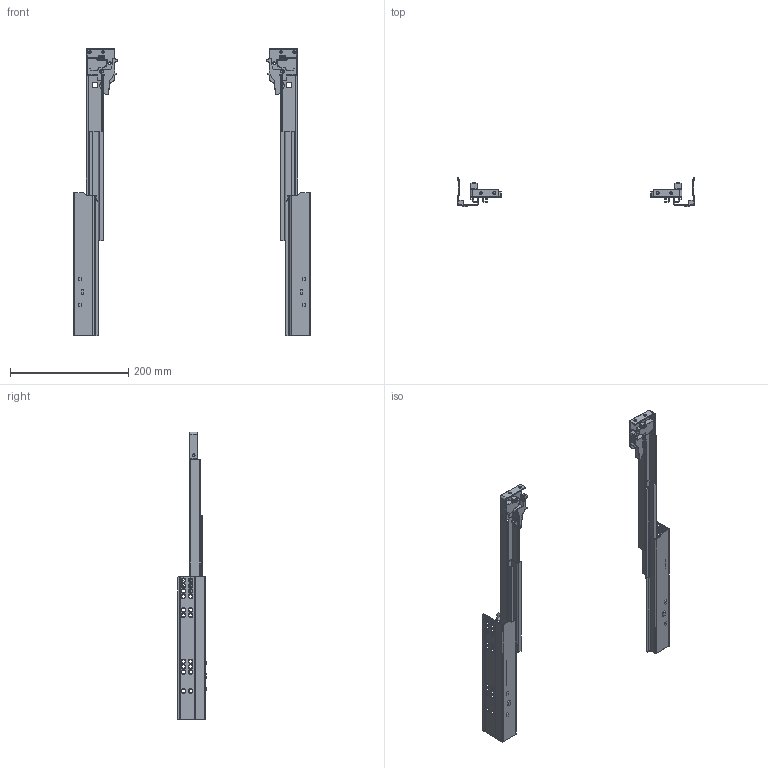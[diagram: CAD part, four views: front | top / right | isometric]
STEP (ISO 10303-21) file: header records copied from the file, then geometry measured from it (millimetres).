
FILE_DESCRIPTION(/* description */ (''),/* implementation_level */ '2;1');
FILE_NAME(/* name */ 'D:\$Workingspace\Designs\Katalog\Cadsoft\GTV Prowadnice\Prowadnice GTV_bryły 3D\PB-0SHX-270-A_wysuw.stp',/* time_stamp */ '2016-11-21T12:38:22+01:00',/* author */ ('tomaszw'),/* organization */ (''),/* preprocessor_version */ 'ST-DEVELOPER v16.1',/* originating_system */ 'Autodesk Inventor 2016',/* authorisation */ '');
FILE_SCHEMA (('AUTOMOTIVE_DESIGN { 1 0 10303 214 3 1 1 }'));
Products named in the file (9): PB-0SHX-CL-270; PB-0SHX-CR-270; PB-0SHX-DL-270; PB-0SHX-DR-270; PB-0SHX-DWL-270; PB-0SHX-DWR-270; PB-0SHX-SL; PB-0SHX-SR; PB-0SHX
Assembly tree (8 placements, depth 2):
  PB-0SHX
    PB-0SHX-CL-270
    PB-0SHX-CR-270
    PB-0SHX-DL-270
    PB-0SHX-DR-270
    PB-0SHX-DWL-270
    PB-0SHX-DWR-270
    PB-0SHX-SL
    PB-0SHX-SR
Bounding box: 400 x 48.8 x 486.5 mm (x, y, z)
Volume: 199411.2 mm3; surface area: 237492.4 mm2
Topology: 14 solids, 14 shells, 3440 faces, 8138 edges, 4730 vertices
Faces by surface type: bspline 1080, cylinder 916, torus 550, plane 462, sphere 332, cone 100
Full cylindrical faces by diameter (mm): 3.64 x2, 4 x6, 4.5 x6, 5.64 x2, 6 x40
Entity records: 142899 total; most frequent: CARTESIAN_POINT 65951, ORIENTED_EDGE 15928, DIRECTION 14320, EDGE_CURVE 7964, AXIS2_PLACEMENT_3D 6155, VERTEX_POINT 4682, CIRCLE 3732, EDGE_LOOP 3686
